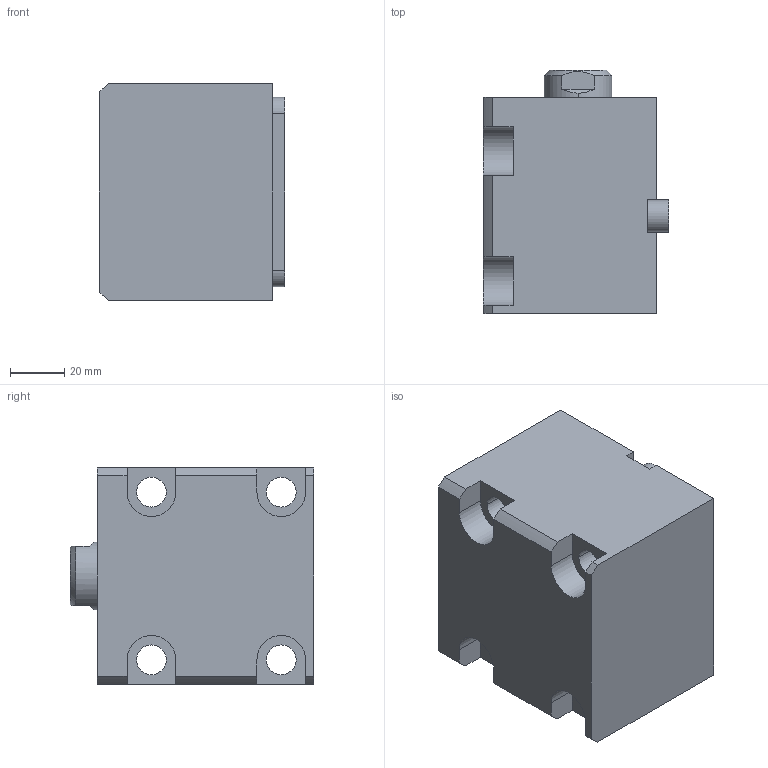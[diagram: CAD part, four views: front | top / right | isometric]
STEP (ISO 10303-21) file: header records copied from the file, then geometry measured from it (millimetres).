
FILE_DESCRIPTION (( 'STEP AP214' ), '1' );
FILE_NAME ('chtb-lam40x25n_asm.STEP', '2018-05-29T08:01:38', ( 'Windows' ), ( 'Microsoft' ), 'SwSTEP 2.0', 'SolidWorks 2015', '' );
FILE_SCHEMA (( 'AUTOMOTIVE_DESIGN' ));
Length unit declared in the file: millimetre
Products named in the file (5): CHTB-SD40X25NHSG; CHTB-SD40QG; CHTB-LAM40X25NBT; CHTB-LA40PJ; chtb-lam40x25n_asm
Assembly tree (4 placements, depth 2):
  chtb-lam40x25n_asm
    CHTB-LA40PJ
    CHTB-LAM40X25NBT
    CHTB-SD40QG
    CHTB-SD40X25NHSG
Bounding box: 68.5 x 90 x 80 mm (x, y, z)
Volume: 355167.2 mm3; surface area: 76278.5 mm2
Topology: 4 solids, 4 shells, 154 faces, 418 edges, 278 vertices
Faces by surface type: cylinder 73, plane 46, bspline 14, torus 12, cone 9
Entity records: 10092 total; most frequent: CARTESIAN_POINT 6074, ORIENTED_EDGE 824, DIRECTION 755, EDGE_CURVE 412, AXIS2_PLACEMENT_3D 300, VERTEX_POINT 278, EDGE_LOOP 180, LINE 155
